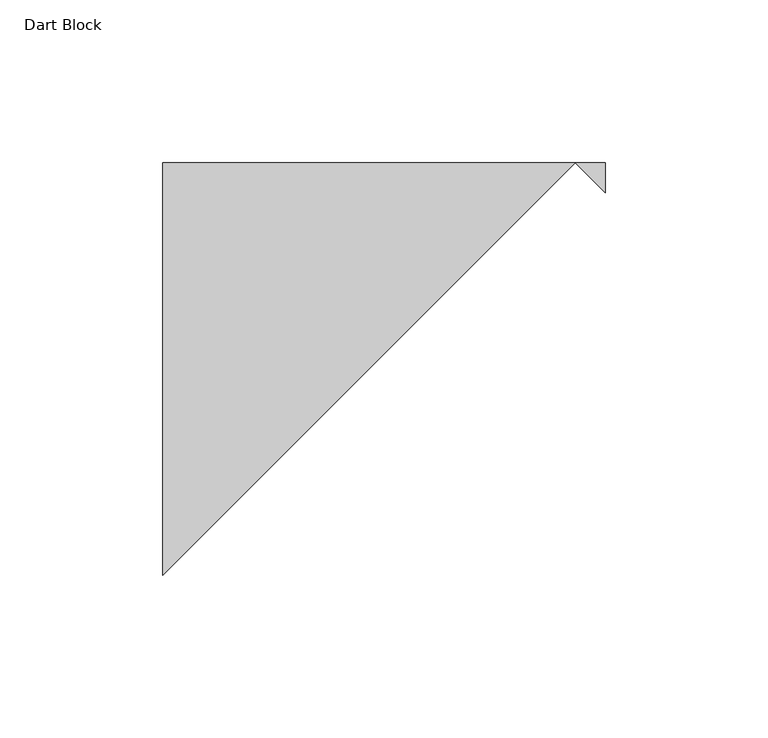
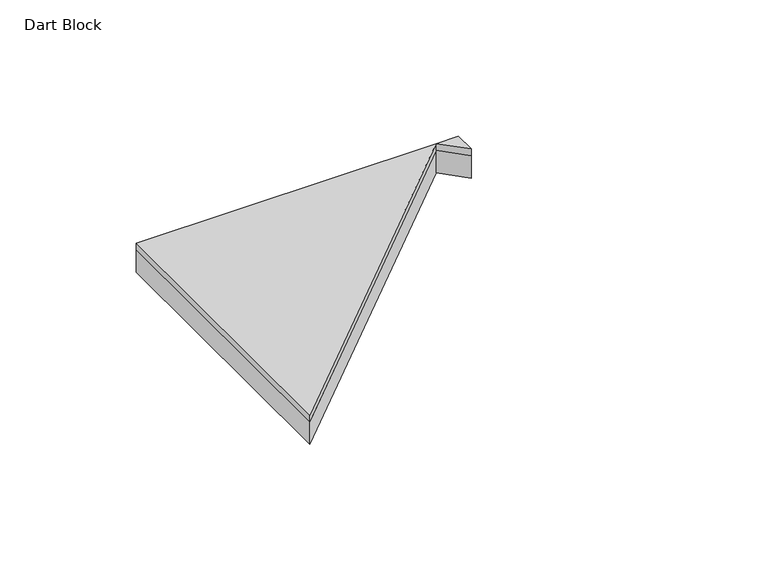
"""IFC4 building model written with IfcOpenShell, lengths in millimetres: proxy geometry, FilzFelt_Dart_Block : Dart Block."""

import ifcopenshell
import ifcopenshell.guid

model = None  # the IFC model being written
_history = None  # IfcOwnerHistory: only IFC2X3 demands one
_inside = {}  # id of a spatial element -> (the spatial element, [elements in it])
_under = {}  # id of a project, library or spatial element -> (it, [spatial elements below it])
_declared = {}  # id of a project -> (the project, [libraries it declares])
_typed = {}  # id of a type object -> (the type object, [elements of that type])
_made_of = {}  # id of a material, layer set ... -> (it, [elements and type objects made of it])


def new_model(schema):
    """Start an empty IFC model of exactly this schema.

    Asked for "IFC4X3", IfcOpenShell would pick the latest addendum, in which some entities
    have other attributes; the version numbers below select the first issue.
    IFC2X3 requires an IfcOwnerHistory on every rooted entity: one is made here for all.
    """
    global model, _history
    if schema == "IFC4X3":
        model = ifcopenshell.file(schema_version=(4, 3, 0, 0))
    else:
        model = ifcopenshell.file(schema=schema)
    _inside.clear()
    _under.clear()
    _declared.clear()
    _typed.clear()
    _made_of.clear()
    _history = None
    if model.schema == "IFC2X3":
        org = make("IfcOrganization", Name="unknown")
        user = make(
            "IfcPersonAndOrganization",
            ThePerson=make("IfcPerson", FamilyName="unknown"),
            TheOrganization=org,
        )
        app = make(
            "IfcApplication",
            ApplicationDeveloper=org,
            Version="unknown",
            ApplicationFullName="unknown",
            ApplicationIdentifier="unknown",
        )
        _history = make(
            "IfcOwnerHistory",
            OwningUser=user,
            OwningApplication=app,
            ChangeAction="ADDED",
            CreationDate=0,
        )
    return model


def make(cls, **values):
    """One entity of the class cls with the attributes given. An attribute that is None is left unset."""
    return model.create_entity(
        cls, **{name: value for name, value in values.items() if value is not None}
    )


def rooted(cls, **values):
    """An entity with a GlobalId (a new one), such as an element, a storey or a relation."""
    return make(cls, GlobalId=ifcopenshell.guid.new(), OwnerHistory=_history, **values)


def si_unit(unit_type, name, prefix=None):
    """IfcSIUnit, for example si_unit("LENGTHUNIT", "METRE", prefix="MILLI")."""
    return make("IfcSIUnit", UnitType=unit_type, Prefix=prefix, Name=name)


def assignment(units):
    """IfcUnitAssignment: the units of a project."""
    return None if units is None else make("IfcUnitAssignment", Units=units)


def point(xyz):
    """IfcCartesianPoint."""
    return None if xyz is None else make("IfcCartesianPoint", Coordinates=xyz)


def direction(xyz):
    """IfcDirection."""
    return None if xyz is None else make("IfcDirection", DirectionRatios=xyz)


def frame(location, z_axis=None, x_axis=None):
    """IfcAxis2Placement3D, a coordinate frame: its origin and axes. An axis left out is left unset."""
    return make(
        "IfcAxis2Placement3D",
        Location=point(location),
        Axis=direction(z_axis),
        RefDirection=direction(x_axis),
    )


def origin():
    """The frame at (0, 0, 0) with its axes left unset."""
    return frame((0.0, 0.0, 0.0))


def place(relative_to, where):
    """IfcLocalPlacement: puts the frame where relative to a parent placement (None: the world)."""
    return make(
        "IfcLocalPlacement", PlacementRelTo=relative_to, RelativePlacement=where
    )


def context(
    kind, dimensions, precision=None, world=None, true_north=None, identifier=None
):
    """IfcGeometricRepresentationContext, for example the 3D "Model" context."""
    return make(
        "IfcGeometricRepresentationContext",
        ContextIdentifier=identifier,
        ContextType=kind,
        CoordinateSpaceDimension=dimensions,
        Precision=precision,
        WorldCoordinateSystem=world,
        TrueNorth=true_north,
    )


def project(units=None, contexts=None):
    """IfcProject with its units and contexts."""
    return rooted(
        "IfcProject",
        Name="project",
        RepresentationContexts=contexts,
        UnitsInContext=assignment(units),
    )


def spatial(cls, under=None, at=None, **own):
    """A site, building, storey or space (cls), placed at a placement, below another one or the project."""
    s = rooted(cls, ObjectPlacement=at, **own)
    if under is not None:
        _under.setdefault(under.id(), (under, []))[1].append(s)
    return s


def faces_of(points, faces, orient=None, outer=None):
    """IfcFace entities. A face is a list of loops; a loop is a list of indices into points, from 0.

    orient and outer hold one flag for each loop. By default every Orientation is true, the
    first loop of a face is its IfcFaceOuterBound and the others are IfcFaceBound.
    """
    made = []
    for i, loops in enumerate(faces):
        bounds = []
        for j, loop in enumerate(loops):
            is_outer = j == 0 if outer is None else outer[i][j]
            bounds.append(
                make(
                    "IfcFaceOuterBound" if is_outer else "IfcFaceBound",
                    Bound=make("IfcPolyLoop", Polygon=[points[k] for k in loop]),
                    Orientation=True if orient is None else orient[i][j],
                )
            )
        made.append(make("IfcFace", Bounds=bounds))
    return made


def faceted_brep(points, faces, orient=None, outer=None, voids=None):
    """IfcFacetedBrep: a solid bounded by flat faces; with voids (closed shells), ...WithVoids."""
    shared = [point(p) for p in points]
    hull = make("IfcClosedShell", CfsFaces=faces_of(shared, faces, orient, outer))
    if voids is None:
        return make("IfcFacetedBrep", Outer=hull)
    return make(
        "IfcFacetedBrepWithVoids",
        Outer=hull,
        Voids=[
            make(cls, CfsFaces=faces_of(shared, fs, o, b)) for cls, fs, o, b in voids
        ],
    )


def shape(context_of_items, identifier, shape_type, items):
    """IfcShapeRepresentation: the items that make up one representation, for example the "Body"."""
    return make(
        "IfcShapeRepresentation",
        ContextOfItems=context_of_items,
        RepresentationIdentifier=identifier,
        RepresentationType=shape_type,
        Items=items,
    )


def source(mapping_origin, context_of_items, identifier, shape_type, items):
    """IfcRepresentationMap: a shape defined once, which mapped items show again and again."""
    return make(
        "IfcRepresentationMap",
        MappingOrigin=mapping_origin,
        MappedRepresentation=shape(context_of_items, identifier, shape_type, items),
    )


def transform(
    local_origin,
    x_axis=None,
    y_axis=None,
    z_axis=None,
    scale=None,
    scale2=None,
    scale3=None,
    uniform=True,
):
    """IfcCartesianTransformationOperator3D, or its non-uniform kind. x_axis, y_axis, z_axis: its Axis1, 2, 3."""
    if uniform:
        return make(
            "IfcCartesianTransformationOperator3D",
            Axis1=direction(x_axis),
            Axis2=direction(y_axis),
            LocalOrigin=point(local_origin),
            Scale=scale,
            Axis3=direction(z_axis),
        )
    return make(
        "IfcCartesianTransformationOperator3DnonUniform",
        Axis1=direction(x_axis),
        Axis2=direction(y_axis),
        LocalOrigin=point(local_origin),
        Scale=scale,
        Axis3=direction(z_axis),
        Scale2=scale2,
        Scale3=scale3,
    )


def mapped(mapping_source, mapping_target):
    """IfcMappedItem: shows the shape of a source again, moved by a transform."""
    return make(
        "IfcMappedItem", MappingSource=mapping_source, MappingTarget=mapping_target
    )


def made_of(thing, what):
    """Note that an element or type object is made of a material, layer set ...; save() writes the relation."""
    if what is not None:
        _made_of.setdefault(what.id(), (what, []))[1].append(thing)
    return thing


def element(
    cls,
    number,
    at=None,
    inside=None,
    cuts=None,
    type_object=None,
    material=None,
    context=None,
    identifier="Body",
    shape_type=None,
    held_by="IfcProductDefinitionShape",
    body=None,
    shapes=None,
    **own,
):
    """One element of the class cls, such as IfcWall. Its Tag is "e" and its number.

    at: its placement. inside: the storey or other place that contains it. cuts: it is an
    opening in that element (IfcRelVoidsElement). A single representation is given by context,
    identifier, shape_type and body (its items); several are given by shapes. held_by: the class
    of the entity that holds the representations. save() writes the other relations.
    """
    e = rooted(cls, Tag="e%d" % number, ObjectPlacement=at, **own)
    if body is not None:
        shapes = [shape(context, identifier, shape_type, body)]
    if shapes is not None:
        e.Representation = make(held_by, Representations=shapes)
    if inside is not None:
        _inside.setdefault(inside.id(), (inside, []))[1].append(e)
    if cuts is not None:
        rooted(
            "IfcRelVoidsElement", RelatingBuildingElement=cuts, RelatedOpeningElement=e
        )
    if type_object is not None:
        _typed.setdefault(type_object.id(), (type_object, []))[1].append(e)
    return made_of(e, material)


def aggregate(whole, parts):
    """IfcRelAggregates: a whole, such as a stair, and the parts it consists of."""
    return rooted("IfcRelAggregates", RelatingObject=whole, RelatedObjects=parts)


def save(model, path):
    """Write the relations noted so far, then the file.

    IfcRelAggregates (storeys below a building ...), IfcRelContainedInSpatialStructure (elements
    in a storey), IfcRelDefinesByType, IfcRelAssociatesMaterial and IfcRelDeclares: one each for
    every whole, place, type object, material and project.
    """
    for whole, parts in _under.values():
        aggregate(whole, parts)
    for where, things in _inside.values():
        rooted(
            "IfcRelContainedInSpatialStructure",
            RelatedElements=things,
            RelatingStructure=where,
        )
    for kind, things in _typed.values():
        rooted("IfcRelDefinesByType", RelatedObjects=things, RelatingType=kind)
    for what, things in _made_of.values():
        rooted("IfcRelAssociatesMaterial", RelatedObjects=things, RelatingMaterial=what)
    for by, libraries in _declared.values():
        rooted("IfcRelDeclares", RelatingContext=by, RelatedDefinitions=libraries)
    model.write(path)


def dart_block_9c98eb1a(model_context):
    return source(origin(), model_context, "Body", "Brep", [
        faceted_brep([(0.0, -63.5, 10.0210937), (-127.0, -190.5, 10.0210937), (-127.0, -63.5, 10.0210937), (9.2936857, -72.7936857, 10.0210937), (9.2936857, -63.5, 10.0210937), (-127.0, -190.5, 12.9976563), (0.0, -63.5, 12.9976563), (-127.0, -63.5, 12.9976563), (9.2936857, -72.7936857, 12.9976563), (9.2936857, -63.5, 12.9976563)], [[[0, 1, 2]], [[3, 0, 4]], [[5, 6, 7]], [[6, 8, 9]], [[6, 0, 3, 8]], [[1, 0, 6, 5]], [[1, 5, 7, 2]], [[0, 2, 7, 6, 9, 4]], [[3, 4, 9, 8]]]),
        faceted_brep([(0.0, -63.5, 0.0), (-127.0, -190.5, 0.0), (-127.0, -63.5, 0.0), (9.2936857, -72.7936857, 0.0), (9.2936857, -63.5, 0.0), (-127.0, -190.5, 10.0210937), (0.0, -63.5, 10.0210937), (-127.0, -63.5, 10.0210937), (9.2936857, -72.7936857, 10.0210937), (9.2936857, -63.5, 10.0210937)], [[[0, 1, 2]], [[3, 0, 4]], [[5, 6, 7]], [[6, 8, 9]], [[6, 0, 3, 8]], [[1, 0, 6, 5]], [[1, 5, 7, 2]], [[0, 2, 7, 6, 9, 4]], [[3, 4, 9, 8]]]),
    ])


if __name__ == "__main__":
    model = new_model("IFC4")
    model_context = context("Model", 3, world=origin())
    ifc_project = project(units=[si_unit("LENGTHUNIT", "METRE", prefix="MILLI")], contexts=[model_context])
    site = spatial("IfcSite", under=ifc_project)
    building = spatial("IfcBuilding", under=site)
    placement = place(None, origin())
    dart_block_shape = dart_block_9c98eb1a(model_context)
    element("IfcBuildingElementProxy", 1, Name="FilzFelt_Dart_Block : Dart Block", ObjectType="FilzFelt_Dart_Block : Dart Block", at=placement, inside=building, context=model_context, shape_type="MappedRepresentation", body=[
        mapped(dart_block_shape, transform((0.0, 0.0, 0.0), x_axis=(1.0, 0.0, 0.0), y_axis=(0.0, 1.0, 0.0), z_axis=(0.0, 0.0, 1.0))),
    ])
    save(model, "model.ifc")
